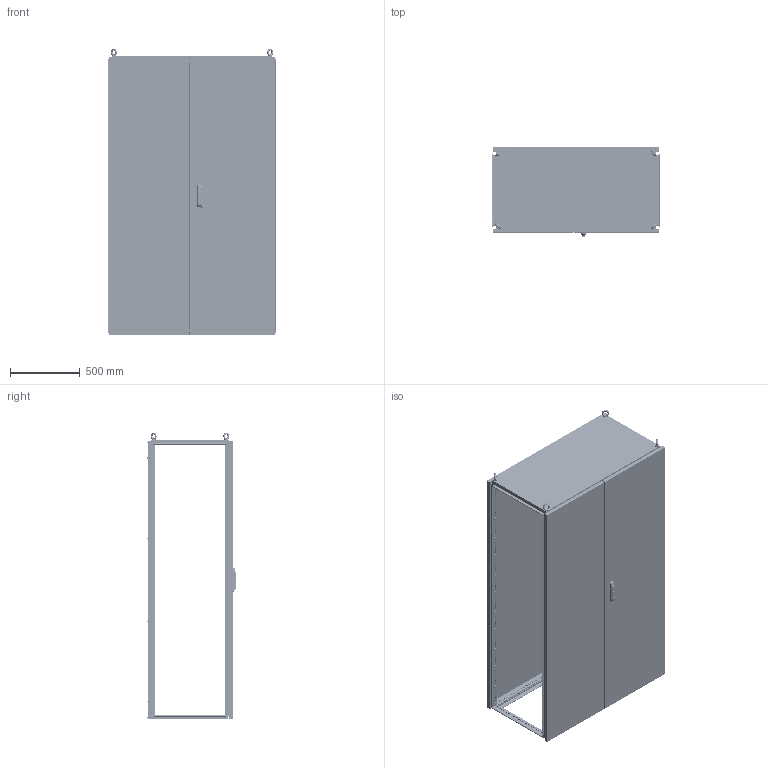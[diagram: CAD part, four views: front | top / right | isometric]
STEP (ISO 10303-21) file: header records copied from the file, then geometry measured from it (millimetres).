
FILE_DESCRIPTION(/* description */ ('Unknown'),/* implementation_level */ '2;1');
FILE_NAME(/* name */ 'MCA12020060',/* time_stamp */ '2025-03-07T11:24:25+01:00',/* author */ ('Unknown'),/* organization */ ('Unknown'),/* preprocessor_version */ 'ST-DEVELOPER v19.4',/* originating_system */ 'Solid Edge',/* authorisation */ 'Unknown');
FILE_SCHEMA (('CONFIG_CONTROL_DESIGN'));
Products named in the file (61): MCA12020060; F0000000.08; AE00198.03; F000X000.50; F000X000.51; F000X000.52; F0000000.45; AE00417.01; AE00413.05; F000X000.49; F0000002.22; F0000002.15; AE01400.01; AE00222.15; AE00636.02; AE00316.01; F0000000.12; AE00992.31; AE00992.10_oa_0; AE00992.18; AE00992.78; AE00992.14; AE00989.13; AE00992.16; AE00315.01; M000X000.54; M0000000.14; AE00500.10; M000X000.55; M0000000.38; M0000000.39; M0000000.06; M000X000.23; M0000000.40; M0000000.41; AE00219.03; C0000000.06; C0000001.23; C0000000.06_GOMMA; AE00715.01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
Assembly tree (283 placements, depth 5):
  MCA12020060
    F0000000.08  x8
    AE00198.03  x16
    F000X000.50
      F000X000.51
        F000X000.52
          F0000000.45
        AE00417.01  x2
        AE00413.05  x4
        F000X000.49
          F0000002.22  x2
          F0000002.15  x2
          AE01400.01  x4
      AE00222.15  x8
      AE00636.02  x8
      AE00316.01  x8
      F0000000.12  x8
      AE00992.31
      AE00992.10_oa_0
      AE00992.18  x4
      AE00992.78  x2
      AE00992.14
      AE00989.13
      AE00992.16
      AE00315.01  x4
    M000X000.54
      M0000000.14  x4
      AE00500.10  x52
      M000X000.55  x2
        M0000000.38
        M0000000.39
        M0000000.06
        M000X000.23
          M0000000.40
          M0000000.41
    AE00219.03  x10
    C0000000.06  x4
      C0000001.23
      C0000000.06_GOMMA
    AE00715.01  x4
    M000X000.56
      M0000000.60
    F0000000.13  x8
    F000X000.44
      F000X000.45
        F0000000.42
      F0000000.07  x2
      AE00100.03_oa_1
      AE00100.03_oa_2
      AE00100.03_oa_3
      AE00100.03_oa_4
    AE00701.03  x7
    M0000000.37  x10
    F000X000.46
      F000X000.47
        F000X000.48
          F0000000.43
        F000X000.49
          F0000002.22  x2
          F0000002.15  x2
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Bounding box: 1200 x 638.2 x 2056.94 mm (x, y, z)
Volume: 27536376.9 mm3; surface area: 20974149.4 mm2
Topology: 313 solids, 313 shells, 13825 faces, 39452 edges, 26463 vertices
Faces by surface type: plane 9699, cylinder 3299, cone 688, torus 90, bspline 25, sphere 24
Full cylindrical faces by diameter (mm): 2 x4, 2.6 x8, 3 x1, 3.2 x2, 3.242 x2, 4 x26, 4.134 x9, 4.25 x372, 4.5 x1230, 4.8 x8, 4.917 x74, 4.918 x16, 5 x20, 5.5 x2, 6 x88, 6.1 x40, 6.2 x17, 6.5 x24, 6.8 x2, 7.5 x4, 7.8 x4, 8 x12, 8.3 x16, 8.5 x2, 9 x52, 10 x1, 10.106 x8, 10.5 x16, 11.8 x16, 12 x22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
Entity records: 110815 total; most frequent: CARTESIAN_POINT 19785, ORIENTED_EDGE 17126, DIRECTION 16912, EDGE_CURVE 8563, LINE 6718, VECTOR 6718, VERTEX_POINT 6058, FACE_BOUND 5533
